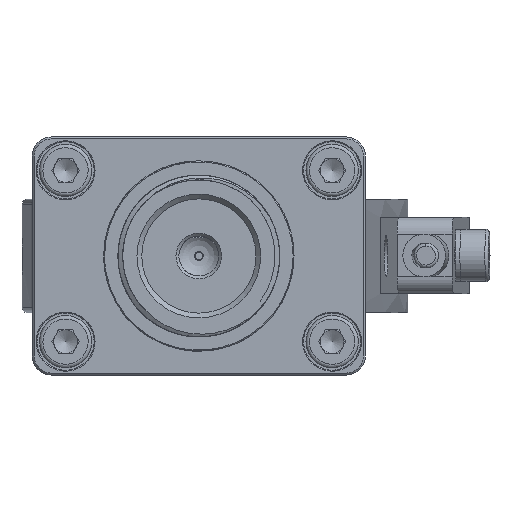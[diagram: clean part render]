
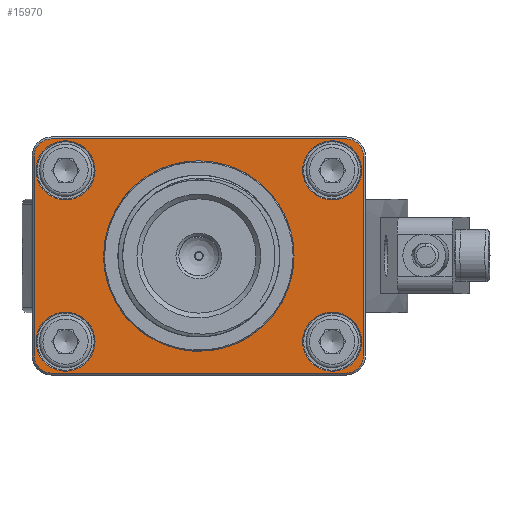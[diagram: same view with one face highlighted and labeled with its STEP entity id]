
A CAD part, front view. The second image highlights one B-rep face of the part: STEP entity #15970.
In plain terms, the highlighted planar face has unit normal (0, -1, 0).
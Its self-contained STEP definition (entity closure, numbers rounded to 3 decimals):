
#13196=FACE_BOUND('',#20879,.T.);
#13197=FACE_BOUND('',#20880,.T.);
#13198=FACE_BOUND('',#20881,.T.);
#13199=FACE_BOUND('',#20882,.T.);
#13200=FACE_BOUND('',#20883,.T.);
#13201=FACE_BOUND('',#20884,.T.);
#14050=CIRCLE('',#45149,3.1);
#14051=CIRCLE('',#45151,3.1);
#14052=CIRCLE('',#45153,3.1);
#14053=CIRCLE('',#45155,3.1);
#14054=CIRCLE('',#45157,10.);
#14055=CIRCLE('',#45159,1.8);
#14056=CIRCLE('',#45160,1.8);
#14057=CIRCLE('',#45161,1.8);
#14058=CIRCLE('',#45162,1.8);
#15970=ADVANCED_FACE('',(#13196,#13197,#13198,#13199,#13200,#13201),#17480,
 .T.);
#17480=PLANE('',#45163);
#20879=EDGE_LOOP('',(#28987));
#20880=EDGE_LOOP('',(#28988));
#20881=EDGE_LOOP('',(#28989));
#20882=EDGE_LOOP('',(#28990));
#20883=EDGE_LOOP('',(#28991));
#20884=EDGE_LOOP('',(#28992,#28993,#28994,#28995,#28996,#28997,#28998,#28999));
#28987=ORIENTED_EDGE('',*,*,#36190,.F.);
#28988=ORIENTED_EDGE('',*,*,#36189,.T.);
#28989=ORIENTED_EDGE('',*,*,#36188,.T.);
#28990=ORIENTED_EDGE('',*,*,#36187,.T.);
#28991=ORIENTED_EDGE('',*,*,#36186,.T.);
#28992=ORIENTED_EDGE('',*,*,#36191,.T.);
#28993=ORIENTED_EDGE('',*,*,#36192,.T.);
#28994=ORIENTED_EDGE('',*,*,#36193,.T.);
#28995=ORIENTED_EDGE('',*,*,#36194,.T.);
#28996=ORIENTED_EDGE('',*,*,#36195,.T.);
#28997=ORIENTED_EDGE('',*,*,#36196,.T.);
#28998=ORIENTED_EDGE('',*,*,#36197,.T.);
#28999=ORIENTED_EDGE('',*,*,#36198,.T.);
#32095=VERTEX_POINT('',#75012);
#32096=VERTEX_POINT('',#75015);
#32097=VERTEX_POINT('',#75018);
#32098=VERTEX_POINT('',#75021);
#32099=VERTEX_POINT('',#75024);
#32100=VERTEX_POINT('',#75027);
#32101=VERTEX_POINT('',#75028);
#32102=VERTEX_POINT('',#75030);
#32103=VERTEX_POINT('',#75032);
#32104=VERTEX_POINT('',#75034);
#32105=VERTEX_POINT('',#75036);
#32106=VERTEX_POINT('',#75038);
#32107=VERTEX_POINT('',#75040);
#36186=EDGE_CURVE('',#32095,#32095,#14050,.T.);
#36187=EDGE_CURVE('',#32096,#32096,#14051,.T.);
#36188=EDGE_CURVE('',#32097,#32097,#14052,.T.);
#36189=EDGE_CURVE('',#32098,#32098,#14053,.T.);
#36190=EDGE_CURVE('',#32099,#32099,#14054,.T.);
#36191=EDGE_CURVE('',#32100,#32101,#39777,.T.);
#36192=EDGE_CURVE('',#32101,#32102,#14055,.T.);
#36193=EDGE_CURVE('',#32102,#32103,#39778,.T.);
#36194=EDGE_CURVE('',#32103,#32104,#14056,.T.);
#36195=EDGE_CURVE('',#32104,#32105,#39779,.T.);
#36196=EDGE_CURVE('',#32105,#32106,#14057,.T.);
#36197=EDGE_CURVE('',#32106,#32107,#39780,.T.);
#36198=EDGE_CURVE('',#32107,#32100,#14058,.T.);
#39777=LINE('',#75026,#43171);
#39778=LINE('',#75031,#43172);
#39779=LINE('',#75035,#43173);
#39780=LINE('',#75039,#43174);
#43171=VECTOR('',#52757,1.);
#43172=VECTOR('',#52760,1.);
#43173=VECTOR('',#52763,1.);
#43174=VECTOR('',#52766,1.);
#45149=AXIS2_PLACEMENT_3D('',#75011,#52737,#52738);
#45151=AXIS2_PLACEMENT_3D('',#75014,#52741,#52742);
#45153=AXIS2_PLACEMENT_3D('',#75017,#52745,#52746);
#45155=AXIS2_PLACEMENT_3D('',#75020,#52749,#52750);
#45157=AXIS2_PLACEMENT_3D('',#75023,#52753,#52754);
#45159=AXIS2_PLACEMENT_3D('',#75029,#52758,#52759);
#45160=AXIS2_PLACEMENT_3D('',#75033,#52761,#52762);
#45161=AXIS2_PLACEMENT_3D('',#75037,#52764,#52765);
#45162=AXIS2_PLACEMENT_3D('',#75041,#52767,#52768);
#45163=AXIS2_PLACEMENT_3D('',#75042,#52769,#52770);
#52737=DIRECTION('',(0.,1.,0.));
#52738=DIRECTION('',(0.,0.,-1.));
#52741=DIRECTION('',(0.,1.,0.));
#52742=DIRECTION('',(0.,0.,-1.));
#52745=DIRECTION('',(0.,1.,0.));
#52746=DIRECTION('',(0.,0.,-1.));
#52749=DIRECTION('',(0.,1.,0.));
#52750=DIRECTION('',(0.,0.,-1.));
#52753=DIRECTION('',(0.,-1.,0.));
#52754=DIRECTION('',(0.,0.,1.));
#52757=DIRECTION('',(0.,0.,1.));
#52758=DIRECTION('',(0.,-1.,0.));
#52759=DIRECTION('',(0.,0.,1.));
#52760=DIRECTION('',(-1.,0.,0.));
#52761=DIRECTION('',(0.,-1.,0.));
#52762=DIRECTION('',(0.,0.,1.));
#52763=DIRECTION('',(0.,0.,-1.));
#52764=DIRECTION('',(0.,-1.,0.));
#52765=DIRECTION('',(0.,0.,1.));
#52766=DIRECTION('',(1.,0.,0.));
#52767=DIRECTION('',(0.,-1.,0.));
#52768=DIRECTION('',(0.,0.,1.));
#52769=DIRECTION('',(0.,-1.,0.));
#52770=DIRECTION('',(0.,0.,-1.));
#75011=CARTESIAN_POINT('',(-14.,-29.5,-21.5));
#75012=CARTESIAN_POINT('',(-14.,-29.5,-24.6));
#75014=CARTESIAN_POINT('',(-14.,-29.5,-3.5));
#75015=CARTESIAN_POINT('',(-14.,-29.5,-6.6));
#75017=CARTESIAN_POINT('',(14.,-29.5,-3.5));
#75018=CARTESIAN_POINT('',(14.,-29.5,-6.6));
#75020=CARTESIAN_POINT('',(14.,-29.5,-21.5));
#75021=CARTESIAN_POINT('',(14.,-29.5,-24.6));
#75023=CARTESIAN_POINT('',(0.,-29.5,-12.5));
#75024=CARTESIAN_POINT('',(0.,-29.5,-2.5));
#75026=CARTESIAN_POINT('',(17.3,-29.5,-21.5));
#75027=CARTESIAN_POINT('',(17.3,-29.5,-23.));
#75028=CARTESIAN_POINT('',(17.3,-29.5,-2.));
#75029=CARTESIAN_POINT('',(15.5,-29.5,-2.));
#75030=CARTESIAN_POINT('',(15.5,-29.5,-0.2));
#75031=CARTESIAN_POINT('',(-14.,-29.5,-0.2));
#75032=CARTESIAN_POINT('',(-15.5,-29.5,-0.2));
#75033=CARTESIAN_POINT('',(-15.5,-29.5,-2.));
#75034=CARTESIAN_POINT('',(-17.3,-29.5,-2.));
#75035=CARTESIAN_POINT('',(-17.3,-29.5,-21.5));
#75036=CARTESIAN_POINT('',(-17.3,-29.5,-23.));
#75037=CARTESIAN_POINT('',(-15.5,-29.5,-23.));
#75038=CARTESIAN_POINT('',(-15.5,-29.5,-24.8));
#75039=CARTESIAN_POINT('',(-14.,-29.5,-24.8));
#75040=CARTESIAN_POINT('',(15.5,-29.5,-24.8));
#75041=CARTESIAN_POINT('',(15.5,-29.5,-23.));
#75042=CARTESIAN_POINT('',(-14.,-29.5,-21.5));
